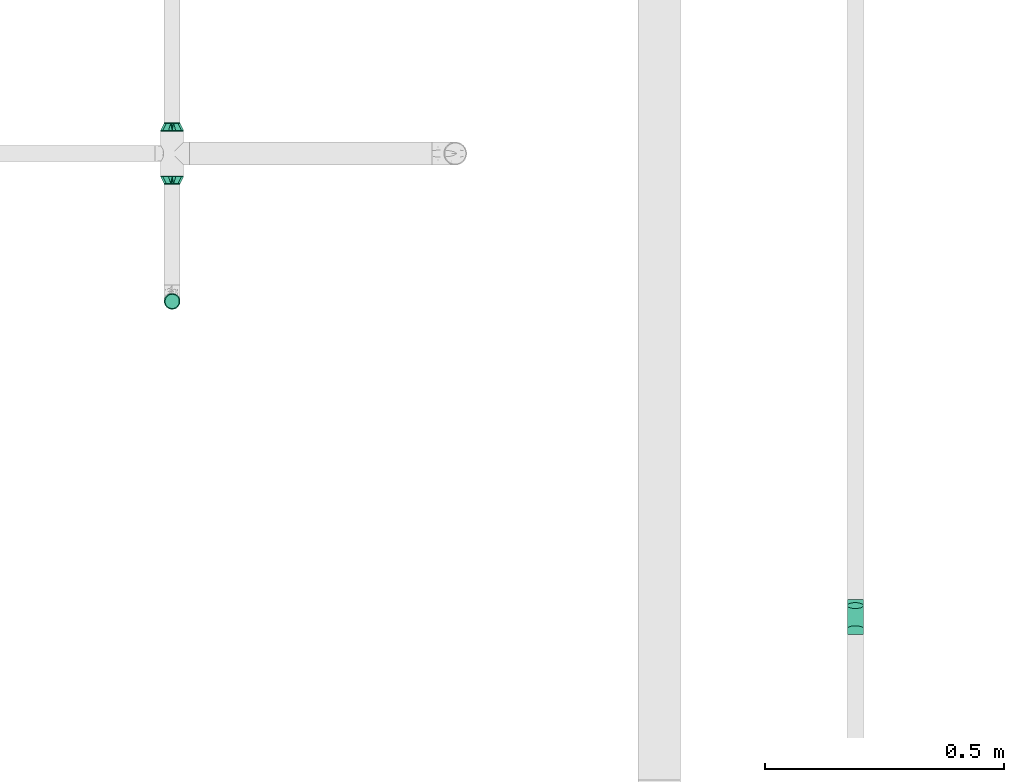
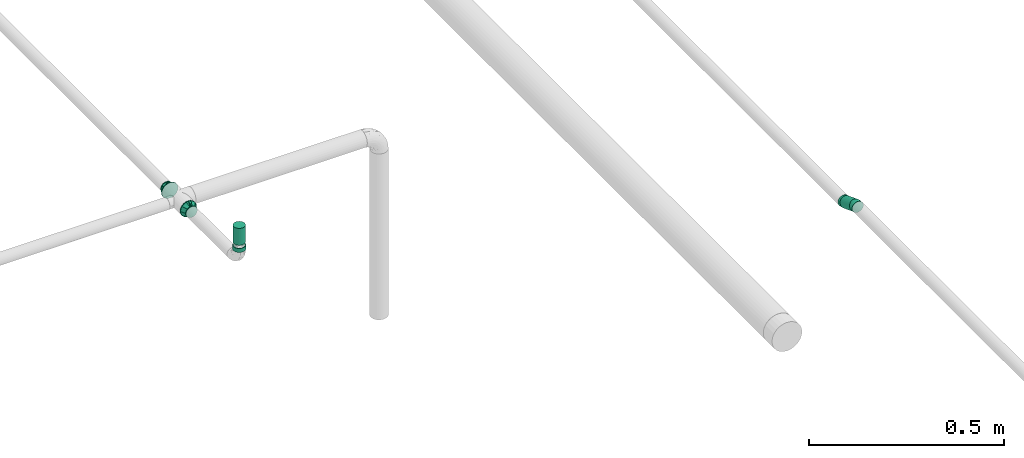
# One storey, part 9 of 32: 4 flow fittings, 2 flow segments, 1 flow terminal.
"""IFC2X3 building model written with IfcOpenShell, lengths in millimetres."""

from ifc_helpers import new_model, entity, si_unit, converted_unit, derived_unit, direction, frame, origin_with_axes, origin_2d_with_axis, place, context, subcontext, project, spatial, hollow_circle, extrude, open_shell, surface_model, source, transform, mapped, type_object, element, save


model = new_model("IFC2X3")

# Units and contexts
model_context = context("Model", 3, precision=0.01, world=frame((0.0, 4.29681676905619e-09, 0.0)), true_north=direction((4.01073788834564e-13, 1.0)))
plan_context = context("Plan", 3, precision=0.01, world=frame((0.0, 4.29681676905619e-09, 0.0)), true_north=direction((4.01073788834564e-13, 1.0)))
body_context = subcontext(model_context, "Body", "Model", "MODEL_VIEW")
ifc_project = project(units=[converted_unit("PLANEANGLEUNIT", "DEGREE", entity("IfcPositiveLengthMeasure", 0.0174532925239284), si_unit("PLANEANGLEUNIT", "RADIAN"), dimensions=[0, 0, 0, 0, 0, 0, 0]), si_unit("AREAUNIT", "SQUARE_METRE"), si_unit("LENGTHUNIT", "METRE", prefix="MILLI"), si_unit("MASSUNIT", "GRAM", prefix="KILO"), si_unit("POWERUNIT", "WATT"), si_unit("PRESSUREUNIT", "PASCAL", prefix="KILO"), si_unit("FORCEUNIT", "NEWTON", prefix="KILO"), si_unit("ELECTRICVOLTAGEUNIT", "VOLT"), si_unit("ELECTRICCURRENTUNIT", "AMPERE"), si_unit("THERMODYNAMICTEMPERATUREUNIT", "DEGREE_CELSIUS"), si_unit("TIMEUNIT", "SECOND"), si_unit("VOLUMEUNIT", "CUBIC_METRE"), derived_unit("LINEARVELOCITYUNIT", [(si_unit("LENGTHUNIT", "METRE"), 1), (si_unit("TIMEUNIT", "SECOND"), -1)]), derived_unit("VOLUMETRICFLOWRATEUNIT", [(si_unit("VOLUMEUNIT", "CUBIC_METRE"), 1), (si_unit("TIMEUNIT", "SECOND"), -1)]), derived_unit("THERMALTRANSMITTANCEUNIT", [(si_unit("POWERUNIT", "WATT"), 1), (si_unit("THERMODYNAMICTEMPERATUREUNIT", "KELVIN"), -1), (si_unit("AREAUNIT", "SQUARE_METRE"), -1)]), derived_unit("SOUNDPRESSUREUNIT", [(si_unit("PRESSUREUNIT", "PASCAL"), 1)])], contexts=[model_context, plan_context])

# Site, building, storey
site_placement = place(None, frame((0.0, -4.29681676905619e-09, 0.0), z_axis=(0.0, 0.0, 1.0), x_axis=(1.0, 0.0, 0.0)))
site = spatial("IfcSite", under=ifc_project, at=site_placement, CompositionType="ELEMENT")
building_placement = place(site_placement, frame((0.0, 4.29681676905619e-09, 0.0), z_axis=(0.0, 0.0, 1.0), x_axis=(1.0, 0.0, 0.0)))
building = spatial("IfcBuilding", under=site, at=building_placement, Name="mc-building", CompositionType="ELEMENT")
storey_placement = place(building_placement, frame((0.0, 0.0, 205200.0), z_axis=(0.0, 0.0, 1.0), x_axis=(1.0, 0.0, 0.0)))
storey = spatial("IfcBuildingStorey", under=building, at=storey_placement, Name="Nivå D + 1,2 m", CompositionType="ELEMENT", Elevation=205200.0)

# Flow fittings
pipe_fitting_type_1 = type_object("IfcPipeFittingType", Name="magi_pipe_fe_reducer_centric_short_001", PredefinedType="TRANSITION")
shared_shape_1 = source(origin_with_axes(), body_context, "Body", "SurfaceModel", [
    surface_model("IfcShellBasedSurfaceModel", [(-2.0, 0.0, 24.2), (-2.0, 6.26342, 23.37541), (-2.0, 12.1, 20.95781), (-2.0, 17.11198, 17.11198), (-2.0, 24.2, 0.0), (-2.0, 20.95781, 12.1), (-2.0, -23.37541, 6.26342), (-2.0, -17.11198, -17.11198), (-2.0, -6.26342, 23.37541), (-2.0, -17.11198, 17.11198), (-2.0, -12.1, 20.95781), (-2.0, -20.95781, 12.1), (-2.0, -24.2, 0.0), (-2.0, 23.37541, 6.26342), (-2.0, 23.37541, -6.26342), (-2.0, 6.26342, -23.37541), (-2.0, 17.11198, -17.11198), (-2.0, 20.95781, -12.1), (-2.0, 12.1, -20.95781), (-2.0, -23.37541, -6.26342), (-2.0, -20.95781, -12.1), (-2.0, -6.26342, -23.37541), (-2.0, -12.1, -20.95781), (-2.0, 0.0, -24.2), (0.0, 24.2, 0.0), (0.0, 6.26342, -23.37541), (0.0, 12.1, -20.95781), (0.0, 23.37541, -6.26342), (0.0, 17.11198, -17.11198), (0.0, 20.95781, -12.1), (0.0, -24.2, 0.0), (0.0, -12.1, -20.95781), (0.0, -6.26342, -23.37541), (0.0, 0.0, -24.2), (0.0, -17.11198, -17.11198), (0.0, -23.37541, -6.26342), (0.0, -20.95781, -12.1), (0.0, 20.95781, 12.1), (0.0, 17.11198, 17.11198), (0.0, 12.1, 20.95781), (0.0, 6.26342, 23.37541), (0.0, 0.0, 24.2), (0.0, -23.37541, 6.26342), (0.0, -17.11198, 17.11198), (0.0, -20.95781, 12.1), (0.0, -6.26342, 23.37541), (0.0, -12.1, 20.95781), (0.0, 23.37541, 6.26342), (0.0, 7.47821, 23.01557), (0.0, 19.57821, 14.2244), (0.0, -7.47821, 23.01557), (0.0, 7.47821, -23.01557), (0.0, 19.57821, -14.2244), (0.0, -7.47821, -23.01557), (0.0, -19.57821, -14.2244), (16.6, 4.37404, -16.32415), (16.6, 8.45, -14.63583), (16.6, 11.9501, -11.9501), (16.6, 0.0, -16.9), (16.6, 16.32415, -4.37404), (16.6, 16.32415, 4.37404), (16.6, 14.63583, -8.45), (16.6, -8.45, 14.63583), (16.6, -8.45, -14.63583), (16.6, -4.37404, -16.32415), (16.6, -11.9501, -11.9501), (16.6, -16.32415, -4.37404), (16.6, -14.63583, -8.45), (16.6, -16.32415, 4.37404), (16.6, 16.9, 0.0), (16.6, 14.63583, 8.45), (16.6, 11.9501, 11.9501), (16.6, 4.37404, 16.32415), (16.6, 8.45, 14.63583), (16.6, 0.0, 16.9), (16.6, -14.63583, 8.45), (16.6, -16.9, 0.0), (16.6, -11.9501, 11.9501), (16.6, -4.37404, 16.32415), (14.6, 11.9501, 11.9501), (14.6, 0.0, 16.9), (14.6, 4.37404, 16.32415), (14.6, 8.45, 14.63583), (14.6, 14.63583, 8.45), (14.6, 16.32415, 4.37404), (14.6, -16.32415, 4.37404), (14.6, -8.45, -14.63583), (14.6, -8.45, 14.63583), (14.6, -14.63583, 8.45), (14.6, -11.9501, 11.9501), (14.6, -4.37404, 16.32415), (14.6, -16.32415, -4.37404), (14.6, -16.9, 0.0), (14.6, 16.32415, -4.37404), (14.6, 11.9501, -11.9501), (14.6, 14.63583, -8.45), (14.6, 8.45, -14.63583), (14.6, 4.37404, -16.32415), (14.6, 0.0, -16.9), (14.6, -11.9501, -11.9501), (14.6, -14.63583, -8.45), (14.6, -4.37404, -16.32415), (14.6, 16.9, 0.0), (0.0, -19.57821, 14.2244), (14.6, -13.18758, -8.96258), (14.6, 14.42505, -5.97505), (0.0, 21.8891, -7.1122), (0.0, 13.52821, -18.61999), (0.0, 16.55321, -16.42219), (14.6, -14.42505, -5.97505), (0.0, -21.8891, -7.1122), (0.0, -20.73366, -10.6683), (14.6, 5.97505, -14.42505), (0.0, 0.0, -23.01557), (14.6, -2.98753, -15.66253), (14.6, 2.98753, -15.66253), (14.6, 8.96258, -13.18758), (14.6, 15.66253, -2.98753), (14.6, -15.66253, -2.98753), (0.0, -13.52821, -18.61999), (14.6, -5.97505, -14.42505), (14.6, -8.96258, -13.18758), (14.6, 13.18758, -8.96258), (14.6, 13.18758, 8.96258), (14.6, -14.42505, 5.97505), (0.0, -21.8891, 7.1122), (0.0, -13.52821, 18.61999), (0.0, -16.55321, 16.42219), (14.6, 14.42505, 5.97505), (0.0, 21.8891, 7.1122), (0.0, 20.73366, 10.6683), (14.6, -5.97505, 14.42505), (0.0, 0.0, 23.01557), (14.6, 2.98753, 15.66253), (14.6, -2.98753, 15.66253), (14.6, -8.96258, 13.18758), (14.6, -15.66253, 2.98753), (14.6, 15.66253, 2.98753), (0.0, 13.52821, 18.61999), (14.6, 5.97505, 14.42505), (14.6, 8.96258, 13.18758), (14.6, -13.18758, 8.96258)], [open_shell([[[0, 1, 2]], [[0, 2, 3]], [[4, 3, 5]], [[6, 0, 7]], [[0, 3, 7]], [[8, 9, 10]], [[8, 0, 9]], [[9, 6, 11]], [[0, 6, 9]], [[6, 7, 12]], [[4, 5, 13]], [[3, 14, 15]], [[16, 14, 17]], [[18, 15, 14]], [[18, 14, 16]], [[15, 7, 3]], [[19, 7, 20]], [[12, 7, 19]], [[15, 21, 22]], [[22, 7, 15]], [[21, 15, 23]], [[14, 3, 4]], [[24, 25, 26]], [[27, 26, 28]], [[27, 24, 26]], [[27, 28, 29]], [[25, 30, 31]], [[25, 32, 33]], [[25, 31, 32]], [[34, 35, 36]], [[34, 31, 30]], [[34, 30, 35]], [[25, 24, 37]], [[37, 38, 25]], [[25, 38, 30]], [[39, 40, 41]], [[39, 41, 38]], [[30, 38, 41]], [[42, 43, 44]], [[45, 42, 30]], [[43, 45, 46]], [[45, 43, 42]], [[30, 41, 45]], [[24, 47, 37]], [[19, 35, 12]], [[20, 36, 19]], [[31, 7, 22]], [[20, 7, 34]], [[32, 22, 21]], [[19, 36, 35]], [[35, 30, 12]], [[32, 31, 22]], [[34, 7, 31]], [[34, 36, 20]], [[33, 32, 21]], [[21, 23, 33]], [[15, 25, 23]], [[18, 26, 15]], [[29, 16, 17]], [[18, 16, 28]], [[27, 17, 14]], [[18, 28, 26]], [[26, 25, 15]], [[24, 27, 14]], [[29, 17, 27]], [[29, 28, 16]], [[4, 24, 14]], [[23, 25, 33]], [[13, 47, 4]], [[5, 37, 13]], [[39, 3, 2]], [[5, 3, 38]], [[40, 2, 1]], [[13, 37, 47]], [[47, 24, 4]], [[40, 39, 2]], [[38, 3, 39]], [[38, 37, 5]], [[41, 40, 1]], [[1, 0, 41]], [[8, 45, 0]], [[10, 46, 8]], [[44, 9, 11]], [[10, 9, 43]], [[42, 11, 6]], [[10, 43, 46]], [[46, 45, 8]], [[30, 42, 6]], [[44, 11, 42]], [[44, 43, 9]], [[12, 30, 6]], [[0, 45, 41]], [[48, 49, 50]], [[49, 51, 30]], [[52, 51, 49]], [[30, 53, 54]], [[30, 51, 53]], [[49, 24, 52]], [[55, 56, 57]], [[58, 55, 57]], [[57, 59, 60]], [[59, 57, 61]], [[57, 62, 63]], [[58, 63, 64]], [[58, 57, 63]], [[65, 66, 67]], [[66, 65, 63]], [[63, 68, 66]], [[60, 59, 69]], [[60, 70, 71]], [[60, 71, 72]], [[60, 72, 62]], [[72, 71, 73]], [[62, 72, 74]], [[68, 62, 75]], [[76, 66, 68]], [[75, 62, 77]], [[62, 68, 63]], [[74, 78, 62]], [[57, 60, 62]], [[79, 80, 81]], [[79, 81, 82]], [[79, 83, 84]], [[79, 84, 80]], [[85, 80, 86]], [[87, 88, 89]], [[88, 87, 90]], [[80, 88, 90]], [[80, 85, 88]], [[85, 91, 92]], [[86, 80, 84]], [[84, 93, 94]], [[94, 93, 95]], [[94, 96, 97]], [[86, 84, 94]], [[97, 98, 94]], [[91, 99, 100]], [[99, 91, 86]], [[86, 98, 101]], [[91, 85, 86]], [[94, 98, 86]], [[93, 84, 102]], [[91, 66, 92]], [[100, 67, 91]], [[63, 99, 86]], [[100, 99, 65]], [[64, 86, 101]], [[91, 67, 66]], [[66, 76, 92]], [[64, 63, 86]], [[65, 99, 63]], [[65, 67, 100]], [[58, 64, 101]], [[101, 98, 58]], [[97, 55, 98]], [[96, 56, 97]], [[61, 94, 95]], [[96, 94, 57]], [[59, 95, 93]], [[96, 57, 56]], [[56, 55, 97]], [[69, 59, 93]], [[61, 95, 59]], [[61, 57, 94]], [[102, 69, 93]], [[98, 55, 58]], [[84, 60, 102]], [[83, 70, 84]], [[73, 79, 82]], [[83, 79, 71]], [[72, 82, 81]], [[84, 70, 60]], [[60, 69, 102]], [[72, 73, 82]], [[71, 79, 73]], [[71, 70, 83]], [[74, 72, 81]], [[81, 80, 74]], [[90, 78, 80]], [[87, 62, 90]], [[75, 89, 88]], [[87, 89, 77]], [[68, 88, 85]], [[87, 77, 62]], [[62, 78, 90]], [[76, 68, 85]], [[75, 88, 68]], [[75, 77, 89]], [[92, 76, 85]], [[80, 78, 74]], [[80, 89, 102]], [[102, 79, 80]], [[89, 99, 102]], [[98, 102, 99]], [[94, 102, 98]], [[99, 89, 92]], [[50, 30, 103]], [[30, 50, 49]], [[54, 99, 104]], [[105, 52, 106]], [[94, 107, 108]], [[109, 110, 111]], [[51, 107, 112]], [[113, 114, 53]], [[113, 115, 98]], [[116, 112, 107]], [[24, 117, 106]], [[51, 115, 113]], [[30, 118, 92]], [[99, 54, 119]], [[119, 120, 121]], [[30, 110, 118]], [[117, 24, 102]], [[52, 105, 122]], [[114, 120, 53]], [[114, 113, 98]], [[51, 112, 115]], [[94, 108, 52]], [[109, 118, 110]], [[54, 104, 111]], [[104, 109, 111]], [[94, 52, 122]], [[120, 119, 53]], [[121, 99, 119]], [[117, 105, 106]], [[107, 94, 116]], [[49, 79, 123]], [[124, 103, 125]], [[89, 126, 127]], [[128, 129, 130]], [[50, 126, 131]], [[132, 133, 48]], [[132, 134, 80]], [[135, 131, 126]], [[30, 136, 125]], [[50, 134, 132]], [[24, 137, 102]], [[79, 49, 138]], [[138, 139, 140]], [[24, 129, 137]], [[136, 30, 92]], [[103, 124, 141]], [[133, 139, 48]], [[133, 132, 80]], [[50, 131, 134]], [[89, 127, 103]], [[128, 137, 129]], [[49, 123, 130]], [[123, 128, 130]], [[89, 103, 141]], [[139, 138, 48]], [[140, 79, 138]], [[136, 124, 125]], [[126, 89, 135]]])]),
])
for number, where, z_axis, x_axis, name in (
    (1, (328269.97595, 462524.24044, 4357.43145999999), (0.0, 0.0, 1.0), (0.0, 1.0, 0.0), "magi_pipe_fe_reducer_centric_short_001"),
    (2, (328269.97595, 462427.44044, 4357.43145999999), (0.0, 0.0, 1.0), (0.0, -1.0, 0.0), "magi_pipe_fe_reducer_centric_short_001"),
):
    element("IfcFlowFitting", number, at=place(storey_placement, frame(where, z_axis=z_axis, x_axis=x_axis)), inside=storey, type_object=pipe_fitting_type_1, Name=name, context=body_context, shape_type="MappedRepresentation", body=[
        mapped(shared_shape_1, transform((0.0, 0.0, 0.0), scale=1.0)),
    ])
pipe_fitting_type_2 = type_object("IfcPipeFittingType", Name="magi_pipe_fe_elbow_short_001", PredefinedType="BEND")
shared_shape_2 = source(origin_with_axes(), body_context, "Body", "SurfaceModel", [
    surface_model("IfcShellBasedSurfaceModel", [(-6.38588, 4.37404, -16.32415), (-6.38588, 0.0, -16.9), (-6.38588, 11.9501, -11.9501), (-6.38588, 8.45, -14.63583), (-6.38588, 16.32415, -4.37404), (-6.38588, 14.63583, -8.45), (-6.38588, -14.63583, -8.45), (-6.38588, -16.32415, -4.37404), (-6.38588, -8.45, 14.63583), (-6.38588, -11.9501, -11.9501), (-6.38588, -8.45, -14.63583), (-6.38588, -4.37404, -16.32415), (-6.38588, -16.9, 0.0), (-6.38588, -16.32415, 4.37404), (-6.38588, 11.9501, 11.9501), (-6.38588, 16.32415, 4.37404), (-6.38588, 14.63583, 8.45), (-6.38588, 4.37404, 16.32415), (-6.38588, 8.45, 14.63583), (-6.38588, -14.63583, 8.45), (-6.38588, -11.9501, 11.9501), (-6.38588, -4.37404, 16.32415), (-6.38588, 0.0, 16.9), (-6.38588, 16.9, 0.0), (4.34988, 6.40236, -16.32415), (9.02859, -5.53773, -14.63583), (5.9457, 2.32982, -16.9), (1.58583, 13.45621, -11.9501), (2.86281, 10.19736, -14.63583), (0.60597, 15.95681, -8.45), (-0.00999, 17.52875, -4.37404), (10.30557, -8.79657, 11.9501), (12.11149, -13.40527, 0.0), (11.28543, -11.29717, -8.45), (10.30557, -8.79657, -11.9501), (7.54152, -1.74272, -16.32415), (11.90139, -12.86911, -4.37404), (1.58583, 13.45621, 11.9501), (-0.22009, 18.06491, 0.0), (-0.00999, 17.52875, 4.37404), (0.60597, 15.95681, 8.45), (2.86281, 10.19736, 14.63583), (4.34988, 6.40236, 16.32415), (9.02859, -5.53773, 14.63583), (11.28543, -11.29717, 8.45), (11.90139, -12.86911, 4.37404), (5.9457, 2.32982, 16.9), (7.54152, -1.74272, 16.32415), (2.80559, -14.84978, 6.22833), (2.8597, -12.63465, 10.10504), (1.83215, -9.69744, 13.2685), (1.12573, -5.95843, 15.5316), (0.33444, -1.77018, 16.7288), (-0.48742, 2.57987, 16.77793), (-3.24844, 17.19378, 0.0), (0.37812, -16.144, 3.17045), (3.02642, -16.01866, 0.0), (0.33444, -1.77018, -16.7288), (1.12573, -5.95843, -15.5316), (1.94704, -12.80708, -10.10504), (1.83215, -9.69744, -13.2685), (-0.48742, 2.57987, -16.77793), (5.53791, -15.16915, -3.17045), (2.80559, -14.84978, -6.22833)], [open_shell([[[0, 1, 2]], [[3, 0, 2]], [[4, 5, 2]], [[6, 2, 1]], [[2, 7, 8]], [[9, 6, 10]], [[1, 11, 10]], [[1, 10, 6]], [[6, 7, 2]], [[12, 13, 7]], [[4, 2, 14]], [[14, 15, 4]], [[16, 15, 14]], [[17, 18, 14]], [[2, 8, 14]], [[17, 14, 8]], [[19, 20, 13]], [[13, 20, 7]], [[21, 22, 8]], [[20, 8, 7]], [[8, 22, 17]], [[23, 4, 15]], [[24, 25, 26]], [[27, 24, 28]], [[27, 29, 30]], [[27, 30, 24]], [[31, 32, 24]], [[25, 33, 34]], [[25, 35, 26]], [[33, 32, 36]], [[32, 33, 25]], [[24, 32, 25]], [[24, 30, 31]], [[37, 38, 39]], [[37, 39, 40]], [[37, 41, 42]], [[37, 31, 30]], [[43, 37, 42]], [[32, 44, 45]], [[31, 44, 32]], [[43, 46, 47]], [[43, 31, 37]], [[46, 43, 42]], [[30, 38, 37]], [[48, 49, 19]], [[8, 20, 50]], [[50, 49, 31]], [[45, 44, 48]], [[49, 50, 20]], [[21, 8, 51]], [[50, 51, 8]], [[22, 21, 52]], [[22, 53, 17]], [[31, 43, 50]], [[48, 19, 13]], [[19, 49, 20]], [[16, 14, 40]], [[18, 37, 14]], [[47, 46, 52]], [[51, 52, 21]], [[46, 42, 53]], [[54, 15, 39]], [[55, 48, 13]], [[54, 23, 15]], [[39, 15, 16]], [[12, 55, 13]], [[41, 18, 17]], [[52, 53, 22]], [[12, 56, 55]], [[43, 47, 51]], [[52, 51, 47]], [[43, 51, 50]], [[53, 52, 46]], [[44, 31, 49]], [[49, 48, 44]], [[56, 32, 45]], [[40, 39, 16]], [[38, 54, 39]], [[41, 17, 42]], [[18, 41, 37]], [[40, 14, 37]], [[17, 53, 42]], [[45, 48, 55]], [[45, 55, 56]], [[1, 57, 11]], [[58, 57, 35]], [[59, 60, 34]], [[1, 0, 61]], [[27, 2, 5]], [[60, 58, 25]], [[2, 27, 3]], [[62, 63, 36]], [[4, 30, 5]], [[33, 59, 34]], [[57, 61, 26]], [[3, 24, 0]], [[56, 12, 7]], [[7, 63, 62]], [[60, 9, 10]], [[7, 62, 56]], [[7, 6, 63]], [[6, 59, 63]], [[58, 10, 11]], [[4, 23, 54]], [[54, 38, 30]], [[58, 11, 57]], [[30, 29, 5]], [[27, 5, 29]], [[6, 9, 59]], [[3, 28, 24]], [[60, 59, 9]], [[60, 10, 58]], [[3, 27, 28]], [[57, 1, 61]], [[26, 61, 24]], [[58, 35, 25]], [[24, 61, 0]], [[32, 62, 36]], [[60, 25, 34]], [[33, 36, 63]], [[32, 56, 62]], [[59, 33, 63]], [[35, 57, 26]], [[4, 54, 30]]])]),
])
for number, where, z_axis, x_axis, name in (
    (3, (329697.5, 461537.23146, 4419.99012999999), (-1.0, 0.0, 0.0), (0.0, -1.0, 0.0), "magi_pipe_fe_elbow_short_001"),
    (4, (329697.5, 461477.01815, 4443.58468999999), (-1.0, 0.0, 0.0), (0.0, 1.0, 0.0), "magi_pipe_fe_elbow_short_001"),
):
    element("IfcFlowFitting", number, at=place(storey_placement, frame(where, z_axis=z_axis, x_axis=x_axis)), inside=storey, type_object=pipe_fitting_type_2, Name=name, context=body_context, shape_type="MappedRepresentation", body=[
        mapped(shared_shape_2, transform((0.0, 0.0, 0.0), scale=1.0)),
    ])

# Flow segments
pipe_segment_type = type_object("IfcPipeSegmentType", Name="Stålrør normaltykke", PredefinedType="RIGIDSEGMENT")
shared_shape_3 = source(origin_with_axes(), body_context, "Body", "SweptSolid", [
    extrude(hollow_circle(Radius=16.9, WallThickness=2.0, at=origin_2d_with_axis()), frame((0.0, 0.0, 0.0), z_axis=(1.0, 0.0, 0.0), x_axis=(0.0, 1.0, 0.0)), (0.0, 0.0, 1.0), 12.5),
])
flow_segment_1_placement = place(storey_placement, frame((328269.97595, 462166.9875, 4402.73146000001), z_axis=(-1.0, 0.0, 0.0), x_axis=(0.0, 0.0, -1.0)))
element("IfcFlowSegment", 5, at=flow_segment_1_placement, inside=storey, type_object=pipe_segment_type, Name="Stålrør normaltykke", context=body_context, shape_type="MappedRepresentation", body=[
    mapped(shared_shape_3, transform((0.0, 0.0, 0.0), scale=1.0)),
])
shared_shape_4 = source(origin_with_axes(), body_context, "Body", "SweptSolid", [
    extrude(hollow_circle(Radius=16.9, WallThickness=2.0, at=origin_2d_with_axis()), frame((0.0, 0.0, 0.0), z_axis=(1.0, 0.0, 0.0), x_axis=(0.0, 1.0, 0.0)), (0.0, 0.0, 1.0), 51.9),
])
flow_segment_2_placement = place(storey_placement, frame((329697.5, 461531.28576, 4422.31995), z_axis=(0.0, 0.364840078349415, 0.931070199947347), x_axis=(0.0, -0.931070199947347, 0.364840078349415)))
element("IfcFlowSegment", 6, at=flow_segment_2_placement, inside=storey, type_object=pipe_segment_type, Name="Stålrør normaltykke", context=body_context, shape_type="MappedRepresentation", body=[
    mapped(shared_shape_4, transform((0.0, 0.0, 0.0), scale=1.0)),
])

# Flow terminal
fire_suppression_terminal_type = type_object("IfcFireSuppressionTerminalType", Name="SP-15-K80-68DGR-STD-NEDOVER", PredefinedType="NOTDEFINED")
shared_shape_5 = source(origin_with_axes(), body_context, "Body", "SurfaceModel", [
    surface_model("IfcShellBasedSurfaceModel", [(4.1411, -15.45481, 53.0), (8.0, -13.85641, 53.0), (11.31371, -11.31371, 53.0), (-8.0, -13.85641, 53.0), (15.45481, -4.1411, 53.0), (16.0, 0.0, 53.0), (13.85641, -8.0, 53.0), (0.0, -16.0, 53.0), (-4.1411, -15.45481, 53.0), (-13.85641, -8.0, 53.0), (-11.31371, -11.31371, 53.0), (-15.45481, -4.1411, 53.0), (15.45481, 4.1411, 53.0), (13.85641, 8.0, 53.0), (11.31371, 11.31371, 53.0), (-4.1411, 15.45481, 53.0), (8.0, 13.85641, 53.0), (4.1411, 15.45481, 53.0), (0.0, 16.0, 53.0), (-13.85641, 8.0, 53.0), (-15.45481, 4.1411, 53.0), (-16.0, 0.0, 53.0), (-11.31371, 11.31371, 53.0), (-8.0, 13.85641, 53.0), (0.0, 16.0, 0.0), (4.1411, 15.45481, 0.0), (8.0, 13.85641, 0.0), (-4.1411, 15.45481, 0.0), (11.31371, 11.31371, 0.0), (13.85641, 8.0, 0.0), (15.45481, 4.1411, 0.0), (-15.45481, -4.1411, 0.0), (-11.31371, 11.31371, 0.0), (-8.0, 13.85641, 0.0), (-13.85641, 8.0, 0.0), (-15.45481, 4.1411, 0.0), (-16.0, 0.0, 0.0), (4.1411, -15.45481, 0.0), (16.0, 0.0, 0.0), (15.45481, -4.1411, 0.0), (13.85641, -8.0, 0.0), (11.31371, -11.31371, 0.0), (8.0, -13.85641, 0.0), (-8.0, -13.85641, 0.0), (-13.85641, -8.0, 0.0), (-11.31371, -11.31371, 0.0), (0.0, -16.0, 0.0), (-4.1411, -15.45481, 0.0)], [open_shell([[[0, 1, 2]], [[3, 0, 2]], [[4, 5, 2]], [[4, 2, 6]], [[3, 2, 5]], [[7, 3, 8]], [[7, 0, 3]], [[3, 9, 10]], [[9, 3, 11]], [[5, 11, 3]], [[5, 12, 11]], [[12, 13, 14]], [[15, 12, 14]], [[16, 17, 18]], [[14, 16, 15]], [[18, 15, 16]], [[11, 19, 20]], [[21, 11, 20]], [[22, 15, 23]], [[15, 22, 19]], [[19, 11, 15]], [[11, 12, 15]], [[24, 25, 26]], [[27, 24, 26]], [[28, 29, 30]], [[27, 26, 28]], [[27, 28, 31]], [[27, 32, 33]], [[32, 27, 34]], [[34, 31, 35]], [[31, 34, 27]], [[35, 31, 36]], [[28, 30, 31]], [[37, 38, 39]], [[37, 39, 40]], [[41, 42, 37]], [[41, 37, 40]], [[38, 37, 43]], [[44, 43, 45]], [[43, 44, 31]], [[43, 46, 47]], [[43, 31, 38]], [[37, 46, 43]], [[38, 31, 30]], [[11, 31, 44]], [[45, 9, 44]], [[3, 43, 47]], [[45, 43, 10]], [[8, 47, 46]], [[31, 21, 36]], [[31, 11, 21]], [[44, 9, 11]], [[45, 10, 9]], [[3, 10, 43]], [[47, 8, 3]], [[46, 7, 8]], [[0, 37, 42]], [[41, 1, 42]], [[6, 40, 39]], [[41, 40, 2]], [[4, 39, 38]], [[37, 0, 7]], [[42, 1, 0]], [[41, 2, 1]], [[40, 6, 2]], [[4, 6, 39]], [[38, 5, 4]], [[37, 7, 46]], [[12, 38, 30]], [[13, 30, 29]], [[16, 26, 25]], [[17, 25, 24]], [[30, 13, 12]], [[12, 5, 38]], [[28, 14, 13]], [[28, 26, 14]], [[14, 26, 16]], [[25, 17, 16]], [[28, 13, 29]], [[24, 18, 17]], [[15, 27, 33]], [[32, 23, 33]], [[19, 34, 35]], [[32, 34, 22]], [[20, 35, 36]], [[27, 15, 18]], [[33, 23, 15]], [[32, 22, 23]], [[34, 19, 22]], [[20, 19, 35]], [[36, 21, 20]], [[27, 18, 24]]])]),
])
flow_terminal_placement = place(storey_placement, frame((328269.97595, 462166.9875, 4412.08345999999), z_axis=(0.0, 0.0, 1.0), x_axis=(0.0, -1.0, 0.0)))
element("IfcFlowTerminal", 7, at=flow_terminal_placement, inside=storey, type_object=fire_suppression_terminal_type, Name="SP-15-K80-68DGR-STD-NEDOVER", context=body_context, shape_type="MappedRepresentation", body=[
    mapped(shared_shape_5, transform((0.0, 0.0, 0.0), scale=1.0)),
])

save(model, "model.ifc")
